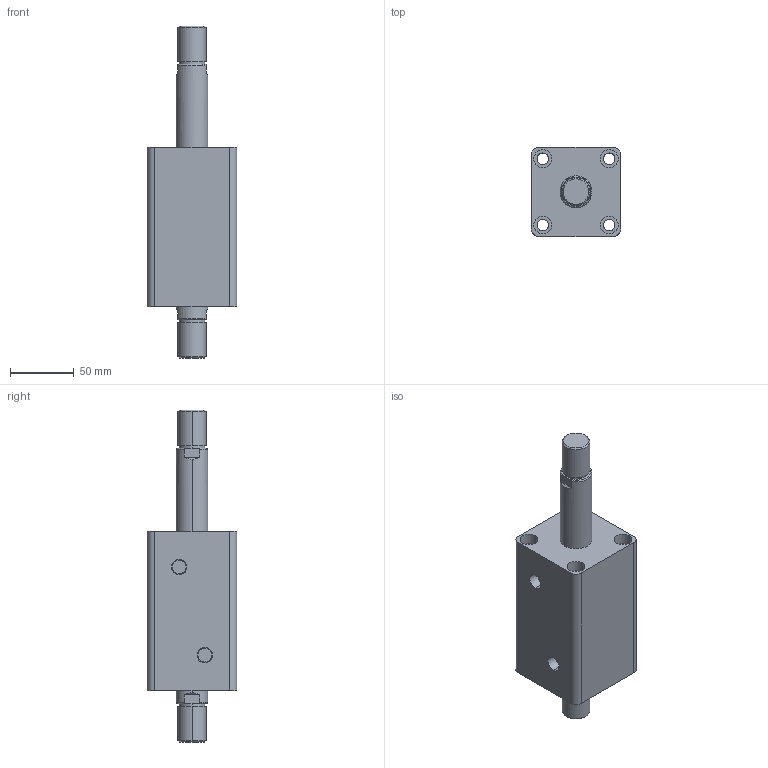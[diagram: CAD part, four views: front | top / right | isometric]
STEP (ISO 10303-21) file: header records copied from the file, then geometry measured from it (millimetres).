
FILE_DESCRIPTION (( 'STEP AP203' ), '1' );
FILE_NAME ('HTB-SW40-55W.STEP', '2019-10-07T09:09:16', ( '微软用户' ), ( '微软中国' ), 'SwSTEP 2.0', 'SolidWorks 2012', '' );
FILE_SCHEMA (( 'CONFIG_CONTROL_DESIGN' ));
Length unit declared in the file: millimetre
Products named in the file (3): HTB-SW40-55W; HTB-SW40-55W活塞杆; HTB-SW40-55掛极
Assembly tree (2 placements, depth 2):
  HTB-SW40-55W
    HTB-SW40-55掛极
    HTB-SW40-55W活塞杆
Bounding box: 70 x 70 x 260 mm (x, y, z)
Volume: 585073.3 mm3; surface area: 95766 mm2
Topology: 2 solids, 2 shells, 108 faces, 240 edges, 156 vertices
Faces by surface type: cylinder 52, plane 36, torus 12, cone 8
Entity records: 3449 total; most frequent: CARTESIAN_POINT 629, DIRECTION 586, ORIENTED_EDGE 480, AXIS2_PLACEMENT_3D 249, EDGE_CURVE 240, VERTEX_POINT 156, EDGE_LOOP 138, CIRCLE 136
